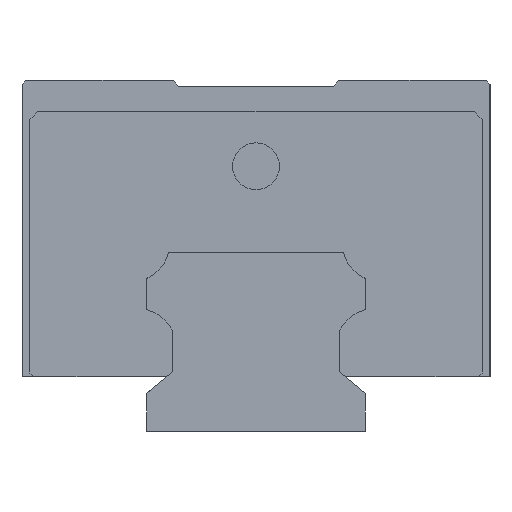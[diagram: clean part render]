
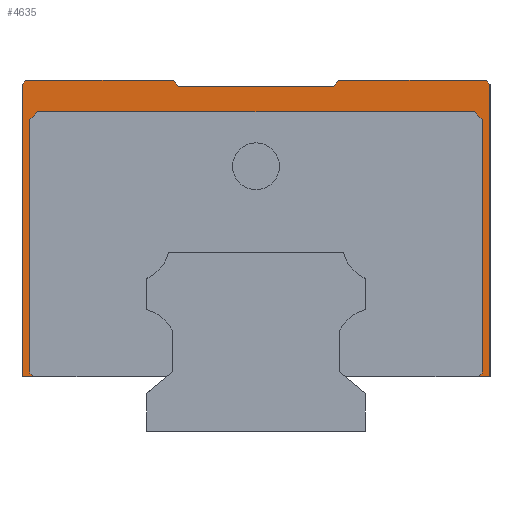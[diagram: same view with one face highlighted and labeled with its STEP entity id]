
A CAD part, left-side view. The second image highlights one B-rep face of the part: STEP entity #4635.
In plain terms, the highlighted planar face has unit normal (-1, 0, 0).
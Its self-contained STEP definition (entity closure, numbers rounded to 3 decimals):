
#15 = ORIENTED_EDGE ( 'NONE', *, *, #3037, .T. ) ;
#16 = VERTEX_POINT ( 'NONE', #4174 ) ;
#72 = VECTOR ( 'NONE', #4784, 1000. ) ;
#126 = CARTESIAN_POINT ( 'NONE',  ( -52.5, -10., 44.25 ) ) ;
#151 = CARTESIAN_POINT ( 'NONE',  ( -52.5, 30., 7. ) ) ;
#171 = EDGE_CURVE ( 'NONE', #1181, #4001, #3009, .T. ) ;
#219 = DIRECTION ( 'NONE',  ( 0., -1., 0. ) ) ;
#220 = LINE ( 'NONE', #1048, #2066 ) ;
#237 = ORIENTED_EDGE ( 'NONE', *, *, #2581, .T. ) ;
#274 = EDGE_CURVE ( 'NONE', #1796, #3067, #1844, .T. ) ;
#278 = CARTESIAN_POINT ( 'NONE',  ( -52.5, 30., 7. ) ) ;
#388 = CARTESIAN_POINT ( 'NONE',  ( -52.5, -29., 40. ) ) ;
#414 = VECTOR ( 'NONE', #3051, 1000. ) ;
#590 = PLANE ( 'NONE',  #3589 ) ;
#652 = VERTEX_POINT ( 'NONE', #1729 ) ;
#653 = CARTESIAN_POINT ( 'NONE',  ( -52.5, -29.5, 45. ) ) ;
#694 = CARTESIAN_POINT ( 'NONE',  ( -52.5, -29., 40. ) ) ;
#747 = CARTESIAN_POINT ( 'NONE',  ( -52.5, 28., 41. ) ) ;
#825 = EDGE_CURVE ( 'NONE', #3099, #1796, #5158, .T. ) ;
#853 = VECTOR ( 'NONE', #1520, 1000. ) ;
#926 = VERTEX_POINT ( 'NONE', #4504 ) ;
#950 = DIRECTION ( 'NONE',  ( 0., 1., 0. ) ) ;
#991 = EDGE_CURVE ( 'NONE', #3754, #652, #4448, .T. ) ;
#1005 = ORIENTED_EDGE ( 'NONE', *, *, #5250, .F. ) ;
#1048 = CARTESIAN_POINT ( 'NONE',  ( -52.5, -10.629, 45. ) ) ;
#1059 = LINE ( 'NONE', #4496, #3951 ) ;
#1082 = CARTESIAN_POINT ( 'NONE',  ( -52.5, 11.769, 7. ) ) ;
#1181 = VERTEX_POINT ( 'NONE', #3900 ) ;
#1190 = DIRECTION ( 'NONE',  ( 0., 0.707, 0.707 ) ) ;
#1208 = VERTEX_POINT ( 'NONE', #151 ) ;
#1257 = CARTESIAN_POINT ( 'NONE',  ( -52.5, -30., 7. ) ) ;
#1298 = ORIENTED_EDGE ( 'NONE', *, *, #171, .T. ) ;
#1362 = EDGE_CURVE ( 'NONE', #1572, #3754, #1059, .T. ) ;
#1419 = CARTESIAN_POINT ( 'NONE',  ( -52.5, -29., 7.5 ) ) ;
#1448 = DIRECTION ( 'NONE',  ( 0., -0.707, 0.707 ) ) ;
#1449 = CARTESIAN_POINT ( 'NONE',  ( -52.5, 30., 45. ) ) ;
#1470 = VECTOR ( 'NONE', #2753, 1000. ) ;
#1520 = DIRECTION ( 'NONE',  ( 0., 0.643, 0.766 ) ) ;
#1535 = VERTEX_POINT ( 'NONE', #3484 ) ;
#1572 = VERTEX_POINT ( 'NONE', #1739 ) ;
#1579 = CARTESIAN_POINT ( 'NONE',  ( -52.5, -28., 41. ) ) ;
#1605 = VECTOR ( 'NONE', #219, 1000. ) ;
#1649 = DIRECTION ( 'NONE',  ( 0., 0.707, -0.707 ) ) ;
#1669 = VECTOR ( 'NONE', #2689, 1000. ) ;
#1670 = LINE ( 'NONE', #3392, #3849 ) ;
#1706 = EDGE_CURVE ( 'NONE', #1181, #1535, #4876, .T. ) ;
#1716 = ORIENTED_EDGE ( 'NONE', *, *, #4362, .T. ) ;
#1729 = CARTESIAN_POINT ( 'NONE',  ( -52.5, -28.5, 7. ) ) ;
#1739 = CARTESIAN_POINT ( 'NONE',  ( -52.5, -30., 44.5 ) ) ;
#1751 = ORIENTED_EDGE ( 'NONE', *, *, #5190, .T. ) ;
#1774 = LINE ( 'NONE', #3521, #414 ) ;
#1796 = VERTEX_POINT ( 'NONE', #747 ) ;
#1844 = LINE ( 'NONE', #4814, #1605 ) ;
#1867 = ORIENTED_EDGE ( 'NONE', *, *, #2274, .F. ) ;
#1882 = VERTEX_POINT ( 'NONE', #653 ) ;
#1979 = VECTOR ( 'NONE', #4429, 1000. ) ;
#2025 = DIRECTION ( 'NONE',  ( 0., 0.707, 0.707 ) ) ;
#2061 = DIRECTION ( 'NONE',  ( 0., 0., -1. ) ) ;
#2062 = ORIENTED_EDGE ( 'NONE', *, *, #3078, .T. ) ;
#2066 = VECTOR ( 'NONE', #3619, 1000. ) ;
#2105 = CARTESIAN_POINT ( 'NONE',  ( -52.5, -30., 44.5 ) ) ;
#2153 = VERTEX_POINT ( 'NONE', #2170 ) ;
#2170 = CARTESIAN_POINT ( 'NONE',  ( -52.5, -10.629, 45. ) ) ;
#2254 = CARTESIAN_POINT ( 'NONE',  ( -52.5, 30., 45. ) ) ;
#2260 = CARTESIAN_POINT ( 'NONE',  ( -52.5, -10., 44.25 ) ) ;
#2274 = EDGE_CURVE ( 'NONE', #2153, #1882, #2724, .T. ) ;
#2313 = VECTOR ( 'NONE', #1448, 1000. ) ;
#2338 = ORIENTED_EDGE ( 'NONE', *, *, #274, .T. ) ;
#2382 = LINE ( 'NONE', #4080, #2610 ) ;
#2505 = ORIENTED_EDGE ( 'NONE', *, *, #991, .F. ) ;
#2581 = EDGE_CURVE ( 'NONE', #16, #2846, #1670, .T. ) ;
#2590 = ORIENTED_EDGE ( 'NONE', *, *, #4038, .T. ) ;
#2610 = VECTOR ( 'NONE', #3277, 1000. ) ;
#2689 = DIRECTION ( 'NONE',  ( 0., 1., 0. ) ) ;
#2724 = LINE ( 'NONE', #1449, #72 ) ;
#2737 = VERTEX_POINT ( 'NONE', #1419 ) ;
#2753 = DIRECTION ( 'NONE',  ( 0., -1., 0. ) ) ;
#2764 = LINE ( 'NONE', #3629, #853 ) ;
#2769 = DIRECTION ( 'NONE',  ( 0., 1., 0. ) ) ;
#2781 = VECTOR ( 'NONE', #1190, 1000. ) ;
#2794 = LINE ( 'NONE', #1082, #4587 ) ;
#2846 = VERTEX_POINT ( 'NONE', #4014 ) ;
#3009 = LINE ( 'NONE', #4731, #3299 ) ;
#3010 = LINE ( 'NONE', #3830, #3661 ) ;
#3013 = ORIENTED_EDGE ( 'NONE', *, *, #3919, .T. ) ;
#3037 = EDGE_CURVE ( 'NONE', #1572, #1882, #5401, .T. ) ;
#3046 = CARTESIAN_POINT ( 'NONE',  ( -52.5, -30., 45. ) ) ;
#3051 = DIRECTION ( 'NONE',  ( 0., -0.707, -0.707 ) ) ;
#3067 = VERTEX_POINT ( 'NONE', #1579 ) ;
#3078 = EDGE_CURVE ( 'NONE', #3067, #5413, #1774, .T. ) ;
#3099 = VERTEX_POINT ( 'NONE', #3469 ) ;
#3277 = DIRECTION ( 'NONE',  ( 0., 0., 1. ) ) ;
#3296 = EDGE_CURVE ( 'NONE', #16, #1208, #2794, .T. ) ;
#3299 = VECTOR ( 'NONE', #1649, 1000. ) ;
#3371 = ORIENTED_EDGE ( 'NONE', *, *, #5102, .T. ) ;
#3392 = CARTESIAN_POINT ( 'NONE',  ( -52.5, 28.5, 7. ) ) ;
#3463 = DIRECTION ( 'NONE',  ( 1., 0., 0. ) ) ;
#3469 = CARTESIAN_POINT ( 'NONE',  ( -52.5, 29., 40. ) ) ;
#3484 = CARTESIAN_POINT ( 'NONE',  ( -52.5, 10.629, 45. ) ) ;
#3510 = LINE ( 'NONE', #694, #1979 ) ;
#3521 = CARTESIAN_POINT ( 'NONE',  ( -52.5, -28., 41. ) ) ;
#3589 = AXIS2_PLACEMENT_3D ( 'NONE', #3046, #3463, #950 ) ;
#3604 = ORIENTED_EDGE ( 'NONE', *, *, #3296, .F. ) ;
#3611 = CARTESIAN_POINT ( 'NONE',  ( -52.5, -30., 7. ) ) ;
#3619 = DIRECTION ( 'NONE',  ( 0., 0.643, -0.766 ) ) ;
#3629 = CARTESIAN_POINT ( 'NONE',  ( -52.5, 10., 44.25 ) ) ;
#3661 = VECTOR ( 'NONE', #4732, 1000. ) ;
#3683 = VERTEX_POINT ( 'NONE', #2260 ) ;
#3754 = VERTEX_POINT ( 'NONE', #1257 ) ;
#3810 = ORIENTED_EDGE ( 'NONE', *, *, #1362, .F. ) ;
#3830 = CARTESIAN_POINT ( 'NONE',  ( -52.5, -29., 7.5 ) ) ;
#3849 = VECTOR ( 'NONE', #2025, 1000. ) ;
#3900 = CARTESIAN_POINT ( 'NONE',  ( -52.5, 29.5, 45. ) ) ;
#3919 = EDGE_CURVE ( 'NONE', #3683, #926, #4781, .T. ) ;
#3951 = VECTOR ( 'NONE', #2061, 1000. ) ;
#4001 = VERTEX_POINT ( 'NONE', #4503 ) ;
#4014 = CARTESIAN_POINT ( 'NONE',  ( -52.5, 29., 7.5 ) ) ;
#4026 = LINE ( 'NONE', #278, #5429 ) ;
#4038 = EDGE_CURVE ( 'NONE', #2846, #3099, #2382, .T. ) ;
#4070 = DIRECTION ( 'NONE',  ( 0., 1., 0. ) ) ;
#4080 = CARTESIAN_POINT ( 'NONE',  ( -52.5, 29., 7.5 ) ) ;
#4174 = CARTESIAN_POINT ( 'NONE',  ( -52.5, 28.5, 7. ) ) ;
#4184 = ORIENTED_EDGE ( 'NONE', *, *, #1706, .F. ) ;
#4341 = CARTESIAN_POINT ( 'NONE',  ( -52.5, 29., 40. ) ) ;
#4362 = EDGE_CURVE ( 'NONE', #926, #1535, #2764, .T. ) ;
#4429 = DIRECTION ( 'NONE',  ( 0., 0., -1. ) ) ;
#4448 = LINE ( 'NONE', #3611, #5063 ) ;
#4496 = CARTESIAN_POINT ( 'NONE',  ( -52.5, -30., 45. ) ) ;
#4503 = CARTESIAN_POINT ( 'NONE',  ( -52.5, 30., 44.5 ) ) ;
#4504 = CARTESIAN_POINT ( 'NONE',  ( -52.5, 10., 44.25 ) ) ;
#4587 = VECTOR ( 'NONE', #4070, 1000. ) ;
#4604 = ORIENTED_EDGE ( 'NONE', *, *, #5256, .T. ) ;
#4635 = ADVANCED_FACE ( 'NONE', ( #5173 ), #590, .F. ) ;
#4731 = CARTESIAN_POINT ( 'NONE',  ( -52.5, 29.5, 45. ) ) ;
#4732 = DIRECTION ( 'NONE',  ( 0., 0.707, -0.707 ) ) ;
#4781 = LINE ( 'NONE', #126, #1669 ) ;
#4784 = DIRECTION ( 'NONE',  ( 0., -1., 0. ) ) ;
#4814 = CARTESIAN_POINT ( 'NONE',  ( -52.5, 28., 41. ) ) ;
#4876 = LINE ( 'NONE', #2254, #1470 ) ;
#4929 = DIRECTION ( 'NONE',  ( 0., 0., 1. ) ) ;
#5063 = VECTOR ( 'NONE', #2769, 1000. ) ;
#5092 = EDGE_LOOP ( 'NONE', ( #3604, #237, #2590, #5233, #2338, #2062, #1751, #3371, #2505, #3810, #15, #1867, #4604, #3013, #1716, #4184, #1298, #1005 ) ) ;
#5102 = EDGE_CURVE ( 'NONE', #2737, #652, #3010, .T. ) ;
#5158 = LINE ( 'NONE', #4341, #2313 ) ;
#5173 = FACE_OUTER_BOUND ( 'NONE', #5092, .T. ) ;
#5190 = EDGE_CURVE ( 'NONE', #5413, #2737, #3510, .T. ) ;
#5233 = ORIENTED_EDGE ( 'NONE', *, *, #825, .T. ) ;
#5250 = EDGE_CURVE ( 'NONE', #1208, #4001, #4026, .T. ) ;
#5256 = EDGE_CURVE ( 'NONE', #2153, #3683, #220, .T. ) ;
#5401 = LINE ( 'NONE', #2105, #2781 ) ;
#5413 = VERTEX_POINT ( 'NONE', #388 ) ;
#5429 = VECTOR ( 'NONE', #4929, 1000. ) ;
